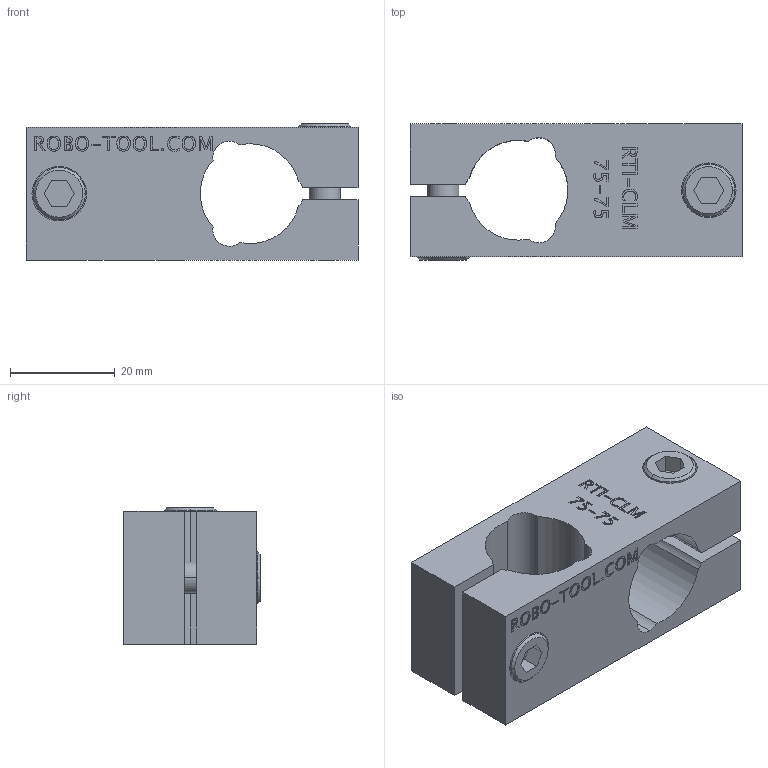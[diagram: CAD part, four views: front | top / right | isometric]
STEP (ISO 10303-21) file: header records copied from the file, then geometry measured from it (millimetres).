
FILE_DESCRIPTION (( 'STEP AP214' ), '1' );
FILE_NAME ('RTI-CLM-75-75.STEP', '2013-10-18T13:14:25', ( 'user' ), ( '' ), 'SwSTEP 2.0', 'SolidWorks 2009', '' );
FILE_SCHEMA (( 'AUTOMOTIVE_DESIGN' ));
Length unit declared in the file: inch
Products named in the file (4): RTI-CLM-75-75; M6 WASHER; M6 S.H.C.S._M6x20mm
Assembly tree (5 placements, depth 2):
  RTI-CLM-75-75
    RTI-CLM-75-75
    M6 S.H.C.S._M6x20mm  x2
    M6 WASHER  x2
Bounding box: 63.5 x 26.05 x 26.05 mm (x, y, z)
Volume: 24401.8 mm3; surface area: 13160.9 mm2
Topology: 5 solids, 5 shells, 358 faces, 910 edges, 604 vertices
Faces by surface type: plane 207, bspline 92, cylinder 51, cone 8
Entity records: 17329 total; most frequent: CARTESIAN_POINT 7786, ORIENTED_EDGE 1720, DIRECTION 1266, EDGE_CURVE 860, LINE 586, VECTOR 586, VERTEX_POINT 572, EDGE_LOOP 384
